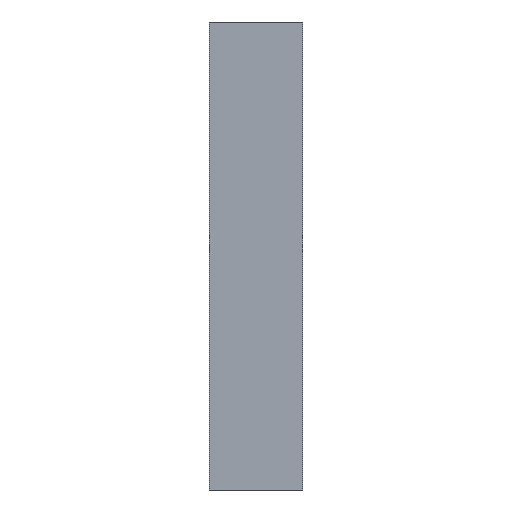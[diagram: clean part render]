
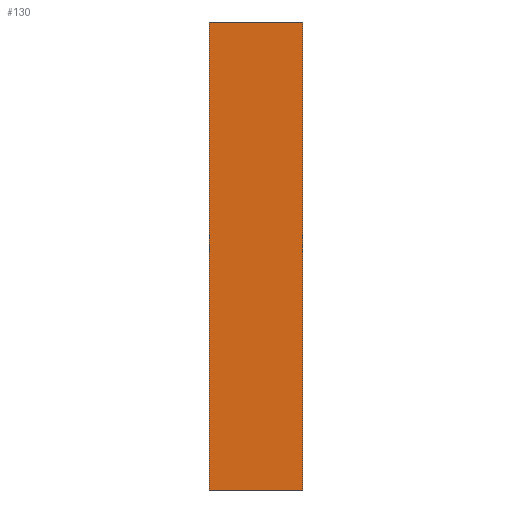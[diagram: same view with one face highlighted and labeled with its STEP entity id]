
A CAD part, left-side view. The second image highlights one B-rep face of the part: STEP entity #130.
In plain terms, the highlighted planar face has unit normal (-1, 0, 0).
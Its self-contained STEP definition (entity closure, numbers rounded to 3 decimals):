
#67 = ORIENTED_EDGE ( 'NONE', *, *, #125, .F. ) ;
#68 = VERTEX_POINT ( 'NONE', #533 ) ;
#69 = EDGE_CURVE ( 'NONE', #133, #84, #532, .T. ) ;
#71 = ORIENTED_EDGE ( 'NONE', *, *, #112, .T. ) ;
#74 = EDGE_LOOP ( 'NONE', ( #106, #67, #71, #75 ) ) ;
#75 = ORIENTED_EDGE ( 'NONE', *, *, #69, .T. ) ;
#84 = VERTEX_POINT ( 'NONE', #556 ) ;
#98 = VERTEX_POINT ( 'NONE', #465 ) ;
#106 = ORIENTED_EDGE ( 'NONE', *, *, #131, .F. ) ;
#112 = EDGE_CURVE ( 'NONE', #68, #133, #528, .T. ) ;
#125 = EDGE_CURVE ( 'NONE', #68, #98, #422, .T. ) ;
#130 = ADVANCED_FACE ( 'NONE', ( #413 ), #412, .T. ) ;
#131 = EDGE_CURVE ( 'NONE', #98, #84, #404, .T. ) ;
#133 = VERTEX_POINT ( 'NONE', #394 ) ;
#394 = CARTESIAN_POINT ( 'NONE',  ( -40., -10., 25. ) ) ;
#401 = DIRECTION ( 'NONE',  ( 0., 0., 1. ) ) ;
#402 = VECTOR ( 'NONE', #401, 1000. ) ;
#403 = CARTESIAN_POINT ( 'NONE',  ( -40., 0., -25. ) ) ;
#404 = LINE ( 'NONE', #403, #402 ) ;
#405 = DIRECTION ( 'NONE',  ( 0., 0., 1. ) ) ;
#406 = DIRECTION ( 'NONE',  ( -1., 0., 0. ) ) ;
#407 = CARTESIAN_POINT ( 'NONE',  ( -40., -10., -25. ) ) ;
#411 = AXIS2_PLACEMENT_3D ( 'NONE', #407, #406, #405 ) ;
#412 = PLANE ( 'NONE',  #411 ) ;
#413 = FACE_OUTER_BOUND ( 'NONE', #74, .T. ) ;
#419 = DIRECTION ( 'NONE',  ( 0., 1., 0. ) ) ;
#420 = VECTOR ( 'NONE', #419, 1000. ) ;
#421 = CARTESIAN_POINT ( 'NONE',  ( -40., -10., -25. ) ) ;
#422 = LINE ( 'NONE', #421, #420 ) ;
#459 = DIRECTION ( 'NONE',  ( 0., 1., 0. ) ) ;
#460 = VECTOR ( 'NONE', #459, 1000. ) ;
#461 = CARTESIAN_POINT ( 'NONE',  ( -40., -10., 25. ) ) ;
#465 = CARTESIAN_POINT ( 'NONE',  ( -40., 0., -25. ) ) ;
#525 = DIRECTION ( 'NONE',  ( 0., 0., 1. ) ) ;
#526 = VECTOR ( 'NONE', #525, 1000. ) ;
#527 = CARTESIAN_POINT ( 'NONE',  ( -40., -10., -25. ) ) ;
#528 = LINE ( 'NONE', #527, #526 ) ;
#532 = LINE ( 'NONE', #461, #460 ) ;
#533 = CARTESIAN_POINT ( 'NONE',  ( -40., -10., -25. ) ) ;
#556 = CARTESIAN_POINT ( 'NONE',  ( -40., 0., 25. ) ) ;
